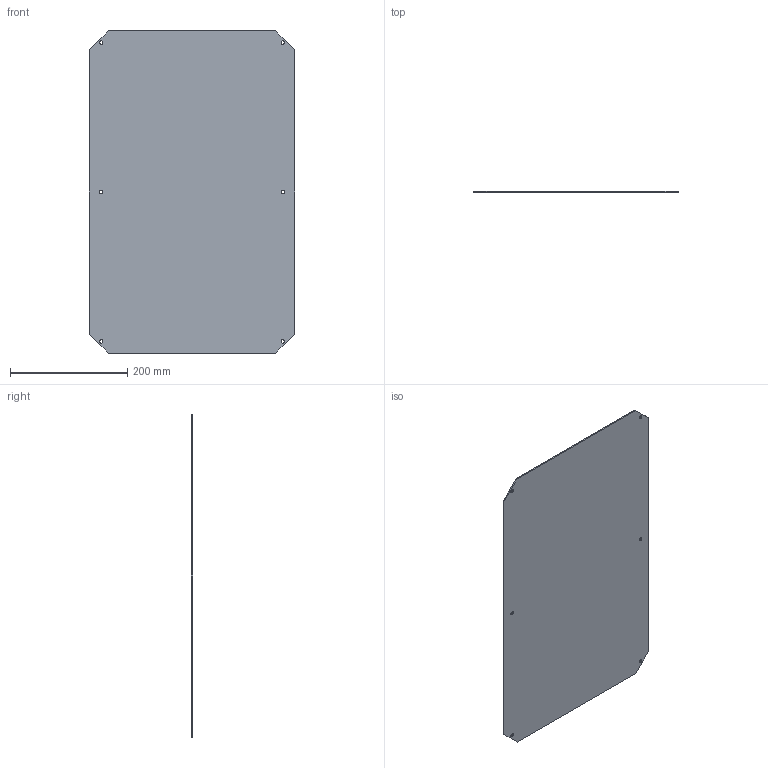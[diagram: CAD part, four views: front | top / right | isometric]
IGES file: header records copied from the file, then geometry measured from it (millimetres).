
Start section: SolidWorks IGES file using analytic representation for surfaces
Global section: file name: \\192.6.1.198\cad2\3DRAW\EKI\12000\MPS 6040.IGS; native system: SolidWorks 2013; preprocessor: SolidWorks 2013; author: KennethW; date: 131007.091155; units: millimetre
Bounding box: 350 x 2 x 550 mm (x, y, z)
Surface area: 384240.9 mm2 (no closed solid volume)
Topology: 0 solids, 0 shells, 22 faces, 288 edges, 288 vertices
Faces by surface type: revolution 12, bspline 10
